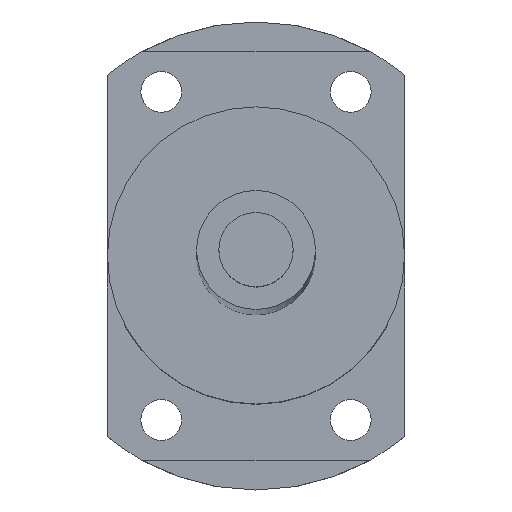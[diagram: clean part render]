
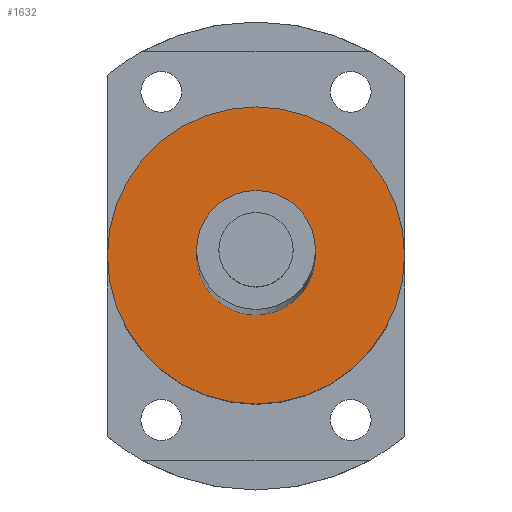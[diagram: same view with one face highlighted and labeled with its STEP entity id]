
A CAD part, top view. The second image highlights one B-rep face of the part: STEP entity #1632.
In plain terms, the highlighted planar face has unit normal (0, 0, 1).
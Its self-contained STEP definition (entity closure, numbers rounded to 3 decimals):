
#503=CARTESIAN_POINT('',(0.,0.,525.5));
#504=DIRECTION('',(0.,0.,1.));
#505=DIRECTION('',(1.,0.,0.));
#506=AXIS2_PLACEMENT_3D('',#503,#504,#505);
#508=CARTESIAN_POINT('',(0.,0.,525.5));
#509=DIRECTION('',(0.,0.,1.));
#510=DIRECTION('',(-1.,0.,0.));
#511=AXIS2_PLACEMENT_3D('',#508,#509,#510);
#513=CARTESIAN_POINT('',(0.,0.,525.5));
#514=DIRECTION('',(0.,0.,1.));
#515=DIRECTION('',(1.,0.,0.));
#516=AXIS2_PLACEMENT_3D('',#513,#514,#515);
#518=CARTESIAN_POINT('',(0.,0.,525.5));
#519=DIRECTION('',(0.,0.,1.));
#520=DIRECTION('',(-1.,0.,0.));
#521=AXIS2_PLACEMENT_3D('',#518,#519,#520);
#757=CARTESIAN_POINT('',(20.,0.,525.5));
#758=CARTESIAN_POINT('',(-20.,0.,525.5));
#759=VERTEX_POINT('',#757);
#760=VERTEX_POINT('',#758);
#769=CARTESIAN_POINT('',(8.,0.,525.5));
#770=CARTESIAN_POINT('',(-8.,0.,525.5));
#771=VERTEX_POINT('',#769);
#772=VERTEX_POINT('',#770);
#1617=CARTESIAN_POINT('',(0.,0.,525.5));
#1618=DIRECTION('',(0.,0.,1.));
#1619=DIRECTION('',(1.,0.,0.));
#1620=AXIS2_PLACEMENT_3D('',#1617,#1618,#1619);
#1621=PLANE('',#1620);
#1622=ORIENTED_EDGE('',*,*,#1597,.F.);
#1623=ORIENTED_EDGE('',*,*,#1611,.F.);
#1624=EDGE_LOOP('',(#1622,#1623));
#1625=FACE_OUTER_BOUND('',#1624,.F.);
#1627=ORIENTED_EDGE('',*,*,#1626,.T.);
#1629=ORIENTED_EDGE('',*,*,#1628,.T.);
#1630=EDGE_LOOP('',(#1627,#1629));
#1631=FACE_BOUND('',#1630,.F.);
#1632=ADVANCED_FACE('',(#1625,#1631),#1621,.T.);
#507=CIRCLE('',#506,20.);
#512=CIRCLE('',#511,20.);
#517=CIRCLE('',#516,8.);
#522=CIRCLE('',#521,8.);
#1597=EDGE_CURVE('',#759,#760,#507,.T.);
#1611=EDGE_CURVE('',#760,#759,#512,.T.);
#1626=EDGE_CURVE('',#771,#772,#517,.T.);
#1628=EDGE_CURVE('',#772,#771,#522,.T.);
